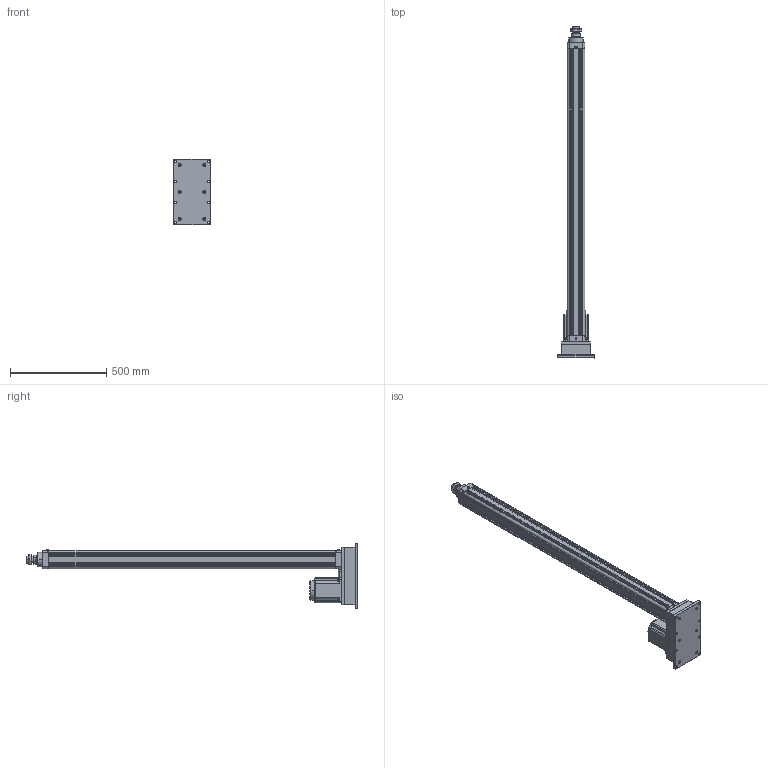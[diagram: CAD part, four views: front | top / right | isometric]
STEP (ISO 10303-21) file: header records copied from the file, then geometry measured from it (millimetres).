
FILE_DESCRIPTION((''),'2;1');
FILE_NAME('HE80-D-P_ASM','2020-04-23T',('ASUS20200'),(''),'CREO PARAMETRIC BY PTC INC, 2014190','CREO PARAMETRIC BY PTC INC, 2014190','');
FILE_SCHEMA(('CONFIG_CONTROL_DESIGN'));
Length unit declared in the file: millimetre
Products named in the file (25): HE80-D-P-001-X1; HE80-D-P-002-X1; HE80-D-P-003-X1; 30304J; YZ-M6X1; SLM-01; JDB506030; HE80-100-D-P-X1_ASM; HE80-P-010-X1-130N; 130ST-M10010; M10X25; HE80-P-009-X1-130N; HE80-P-013-X1-130N; TD-8; M8X35; M8X75; LM-M8-7-5; M10X1-25-40; LM-M10-30; LM-M10; HE80-D-P-005-X1; HE80-D-P-004-X1; HE80-D-P-008-X1; LGLM-M10-25; HE80-D-P_ASM
Assembly tree (45 placements, depth 3):
  HE80-D-P_ASM
    HE80-100-D-P-X1_ASM
      HE80-D-P-001-X1
      HE80-D-P-002-X1
      HE80-D-P-003-X1
      30304J  x2
      YZ-M6X1
      SLM-01
      JDB506030
    HE80-P-010-X1-130N
    130ST-M10010
    M10X25  x4
    HE80-P-009-X1-130N
    HE80-P-013-X1-130N
    TD-8  x4
    M8X35  x4
    M8X75  x6
    LM-M8-7-5  x4
    M10X1-25-40
    LM-M10-30
    LM-M10
    HE80-D-P-005-X1
    HE80-D-P-004-X1
    HE80-D-P-008-X1
    LGLM-M10-25  x4
Bounding box: 190 x 1724 x 340 mm (x, y, z)
Volume: 8624311.3 mm3; surface area: 2372442.7 mm2
Topology: 44 solids, 74 shells, 1972 faces, 4553 edges, 2769 vertices
Faces by surface type: plane 707, cone 604, cylinder 529, torus 102, sphere 26, bspline 4
Entity records: 43837 total; most frequent: CARTESIAN_POINT 8554, DIRECTION 7818, ORIENTED_EDGE 6744, EDGE_CURVE 3423, AXIS2_PLACEMENT_3D 3022, VERTEX_POINT 2082, VECTOR 1774, LINE 1774
